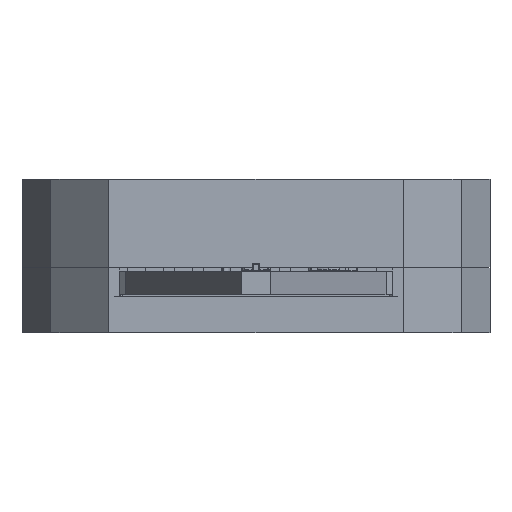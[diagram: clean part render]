
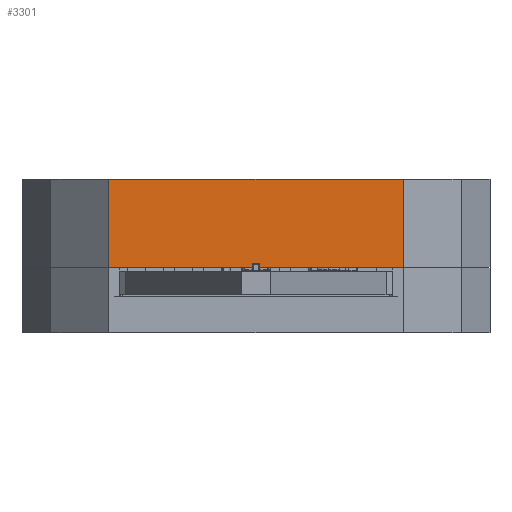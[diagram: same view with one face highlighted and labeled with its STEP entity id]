
A CAD part, front view. The second image highlights one B-rep face of the part: STEP entity #3301.
In plain terms, the highlighted planar face has unit normal (0, -1, 0).
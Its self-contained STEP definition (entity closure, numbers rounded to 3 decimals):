
#3301 = ADVANCED_FACE('',(#3302),#3316,.F.);
#3302 = FACE_BOUND('',#3303,.F.);
#3303 = EDGE_LOOP('',(#3304,#3339,#3367,#3395));
#3304 = ORIENTED_EDGE('',*,*,#3305,.T.);
#3305 = EDGE_CURVE('',#3306,#3308,#3310,.T.);
#3306 = VERTEX_POINT('',#3307);
#3307 = CARTESIAN_POINT('',(-10.2,96.,0.3));
#3308 = VERTEX_POINT('',#3309);
#3309 = CARTESIAN_POINT('',(-10.2,96.,6.4));
#3310 = SURFACE_CURVE('',#3311,(#3315,#3327),.PCURVE_S1.);
#3311 = LINE('',#3312,#3313);
#3312 = CARTESIAN_POINT('',(-10.2,96.,0.3));
#3313 = VECTOR('',#3314,1.);
#3314 = DIRECTION('',(0.,0.,1.));
#3315 = PCURVE('',#3316,#3321);
#3316 = PLANE('',#3317);
#3317 = AXIS2_PLACEMENT_3D('',#3318,#3319,#3320);
#3318 = CARTESIAN_POINT('',(-10.2,96.,0.3));
#3319 = DIRECTION('',(0.,1.,0.));
#3320 = DIRECTION('',(1.,0.,0.));
#3321 = DEFINITIONAL_REPRESENTATION('',(#3322),#3326);
#3322 = LINE('',#3323,#3324);
#3323 = CARTESIAN_POINT('',(0.,0.));
#3324 = VECTOR('',#3325,1.);
#3325 = DIRECTION('',(0.,-1.));
#3326 = ( GEOMETRIC_REPRESENTATION_CONTEXT(2) 
PARAMETRIC_REPRESENTATION_CONTEXT() REPRESENTATION_CONTEXT('2D SPACE',''
  ) );
#3327 = PCURVE('',#3328,#3333);
#3328 = PLANE('',#3329);
#3329 = AXIS2_PLACEMENT_3D('',#3330,#3331,#3332);
#3330 = CARTESIAN_POINT('',(-14.2,100.,0.3));
#3331 = DIRECTION('',(0.707,0.707,-0.));
#3332 = DIRECTION('',(0.707,-0.707,0.));
#3333 = DEFINITIONAL_REPRESENTATION('',(#3334),#3338);
#3334 = LINE('',#3335,#3336);
#3335 = CARTESIAN_POINT('',(5.657,0.));
#3336 = VECTOR('',#3337,1.);
#3337 = DIRECTION('',(0.,-1.));
#3338 = ( GEOMETRIC_REPRESENTATION_CONTEXT(2) 
PARAMETRIC_REPRESENTATION_CONTEXT() REPRESENTATION_CONTEXT('2D SPACE',''
  ) );
#3339 = ORIENTED_EDGE('',*,*,#3340,.T.);
#3340 = EDGE_CURVE('',#3308,#3341,#3343,.T.);
#3341 = VERTEX_POINT('',#3342);
#3342 = CARTESIAN_POINT('',(10.2,96.,6.4));
#3343 = SURFACE_CURVE('',#3344,(#3348,#3355),.PCURVE_S1.);
#3344 = LINE('',#3345,#3346);
#3345 = CARTESIAN_POINT('',(-10.2,96.,6.4));
#3346 = VECTOR('',#3347,1.);
#3347 = DIRECTION('',(1.,0.,0.));
#3348 = PCURVE('',#3316,#3349);
#3349 = DEFINITIONAL_REPRESENTATION('',(#3350),#3354);
#3350 = LINE('',#3351,#3352);
#3351 = CARTESIAN_POINT('',(0.,-6.1));
#3352 = VECTOR('',#3353,1.);
#3353 = DIRECTION('',(1.,0.));
#3354 = ( GEOMETRIC_REPRESENTATION_CONTEXT(2) 
PARAMETRIC_REPRESENTATION_CONTEXT() REPRESENTATION_CONTEXT('2D SPACE',''
  ) );
#3355 = PCURVE('',#3356,#3361);
#3356 = PLANE('',#3357);
#3357 = AXIS2_PLACEMENT_3D('',#3358,#3359,#3360);
#3358 = CARTESIAN_POINT('',(0.,121.255,6.4));
#3359 = DIRECTION('',(0.,0.,1.));
#3360 = DIRECTION('',(1.,0.,-0.));
#3361 = DEFINITIONAL_REPRESENTATION('',(#3362),#3366);
#3362 = LINE('',#3363,#3364);
#3363 = CARTESIAN_POINT('',(-10.2,-25.255));
#3364 = VECTOR('',#3365,1.);
#3365 = DIRECTION('',(1.,0.));
#3366 = ( GEOMETRIC_REPRESENTATION_CONTEXT(2) 
PARAMETRIC_REPRESENTATION_CONTEXT() REPRESENTATION_CONTEXT('2D SPACE',''
  ) );
#3367 = ORIENTED_EDGE('',*,*,#3368,.F.);
#3368 = EDGE_CURVE('',#3369,#3341,#3371,.T.);
#3369 = VERTEX_POINT('',#3370);
#3370 = CARTESIAN_POINT('',(10.2,96.,0.3));
#3371 = SURFACE_CURVE('',#3372,(#3376,#3383),.PCURVE_S1.);
#3372 = LINE('',#3373,#3374);
#3373 = CARTESIAN_POINT('',(10.2,96.,0.3));
#3374 = VECTOR('',#3375,1.);
#3375 = DIRECTION('',(0.,0.,1.));
#3376 = PCURVE('',#3316,#3377);
#3377 = DEFINITIONAL_REPRESENTATION('',(#3378),#3382);
#3378 = LINE('',#3379,#3380);
#3379 = CARTESIAN_POINT('',(20.4,0.));
#3380 = VECTOR('',#3381,1.);
#3381 = DIRECTION('',(0.,-1.));
#3382 = ( GEOMETRIC_REPRESENTATION_CONTEXT(2) 
PARAMETRIC_REPRESENTATION_CONTEXT() REPRESENTATION_CONTEXT('2D SPACE',''
  ) );
#3383 = PCURVE('',#3384,#3389);
#3384 = PLANE('',#3385);
#3385 = AXIS2_PLACEMENT_3D('',#3386,#3387,#3388);
#3386 = CARTESIAN_POINT('',(10.2,96.,0.3));
#3387 = DIRECTION('',(-0.707,0.707,0.));
#3388 = DIRECTION('',(0.707,0.707,0.));
#3389 = DEFINITIONAL_REPRESENTATION('',(#3390),#3394);
#3390 = LINE('',#3391,#3392);
#3391 = CARTESIAN_POINT('',(0.,0.));
#3392 = VECTOR('',#3393,1.);
#3393 = DIRECTION('',(0.,-1.));
#3394 = ( GEOMETRIC_REPRESENTATION_CONTEXT(2) 
PARAMETRIC_REPRESENTATION_CONTEXT() REPRESENTATION_CONTEXT('2D SPACE',''
  ) );
#3395 = ORIENTED_EDGE('',*,*,#3396,.F.);
#3396 = EDGE_CURVE('',#3306,#3369,#3397,.T.);
#3397 = SURFACE_CURVE('',#3398,(#3402,#3409),.PCURVE_S1.);
#3398 = LINE('',#3399,#3400);
#3399 = CARTESIAN_POINT('',(-10.2,96.,0.3));
#3400 = VECTOR('',#3401,1.);
#3401 = DIRECTION('',(1.,0.,0.));
#3402 = PCURVE('',#3316,#3403);
#3403 = DEFINITIONAL_REPRESENTATION('',(#3404),#3408);
#3404 = LINE('',#3405,#3406);
#3405 = CARTESIAN_POINT('',(0.,0.));
#3406 = VECTOR('',#3407,1.);
#3407 = DIRECTION('',(1.,0.));
#3408 = ( GEOMETRIC_REPRESENTATION_CONTEXT(2) 
PARAMETRIC_REPRESENTATION_CONTEXT() REPRESENTATION_CONTEXT('2D SPACE',''
  ) );
#3409 = PCURVE('',#3410,#3415);
#3410 = PLANE('',#3411);
#3411 = AXIS2_PLACEMENT_3D('',#3412,#3413,#3414);
#3412 = CARTESIAN_POINT('',(0.,121.255,0.3));
#3413 = DIRECTION('',(0.,0.,1.));
#3414 = DIRECTION('',(1.,0.,-0.));
#3415 = DEFINITIONAL_REPRESENTATION('',(#3416),#3420);
#3416 = LINE('',#3417,#3418);
#3417 = CARTESIAN_POINT('',(-10.2,-25.255));
#3418 = VECTOR('',#3419,1.);
#3419 = DIRECTION('',(1.,0.));
#3420 = ( GEOMETRIC_REPRESENTATION_CONTEXT(2) 
PARAMETRIC_REPRESENTATION_CONTEXT() REPRESENTATION_CONTEXT('2D SPACE',''
  ) );
